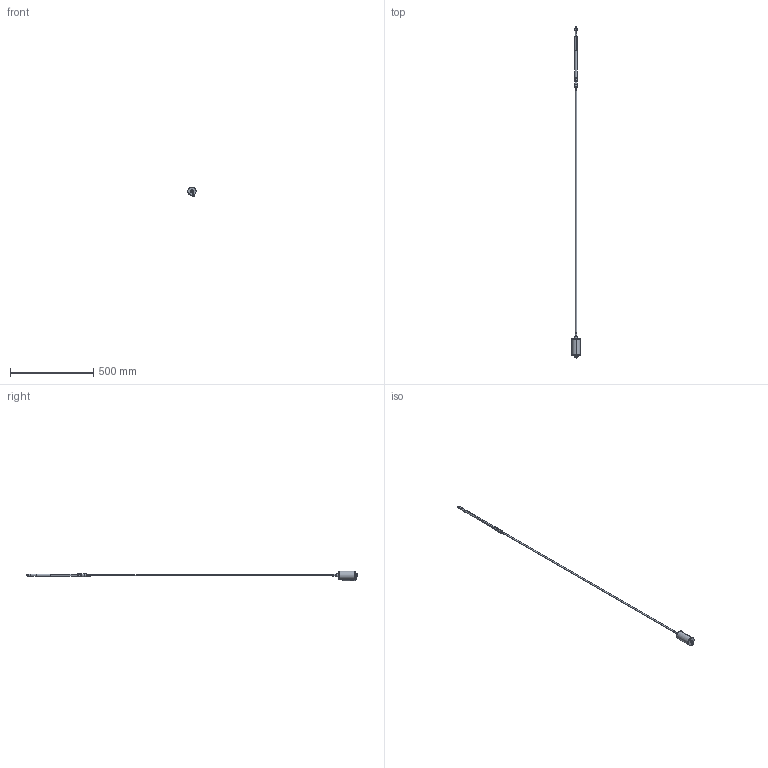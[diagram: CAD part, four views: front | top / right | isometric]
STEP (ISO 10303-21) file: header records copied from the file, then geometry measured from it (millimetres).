
FILE_DESCRIPTION (( 'STEP AP203' ), '1' );
FILE_NAME ('HIX1-S-6-H-M35U-1-5-K-S-0-6-G04.STEP', '2021-02-11T09:31:38', ( '' ), ( '' ), 'SwSTEP 2.0', 'SolidWorks 2021', '' );
FILE_SCHEMA (( 'CONFIG_CONTROL_DESIGN' ));
Length unit declared in the file: millimetre
Products named in the file (1): HIX1-S-6-H-M35U-1-5-K-S-0-6-G04
Bounding box: 49.98 x 1994.6 x 59.73 mm (x, y, z)
Surface area: 78351 mm2 (no closed solid volume)
Topology: 0 solids, 44 shells, 163 faces, 537 edges, 411 vertices
Faces by surface type: cylinder 87, plane 40, cone 16, bspline 14, torus 4, sphere 2
Entity records: 6596 total; most frequent: CARTESIAN_POINT 1866, DIRECTION 1045, ORIENTED_EDGE 763, EDGE_CURVE 537, AXIS2_PLACEMENT_3D 418, VERTEX_POINT 411, CIRCLE 268, LINE 209
